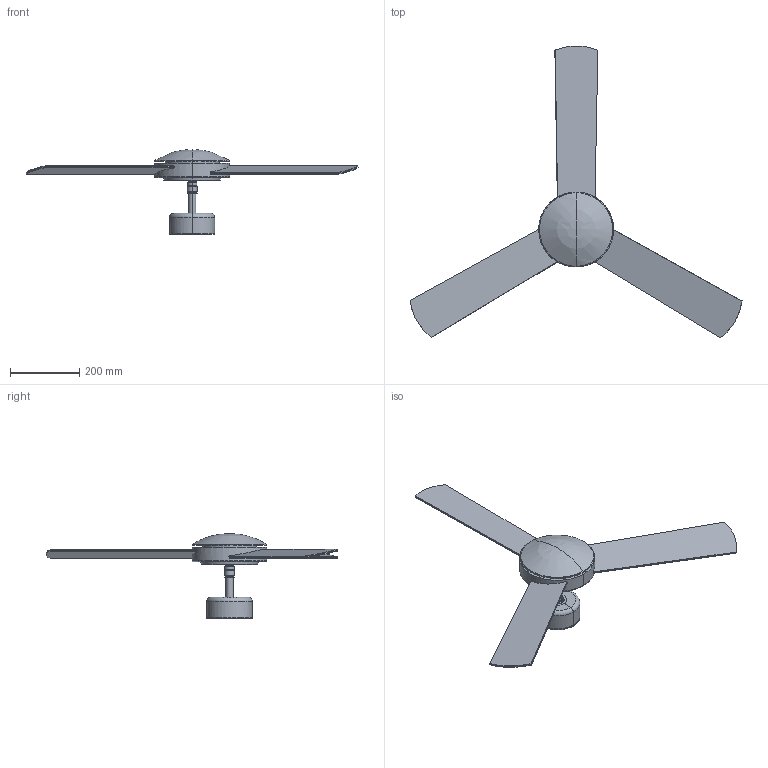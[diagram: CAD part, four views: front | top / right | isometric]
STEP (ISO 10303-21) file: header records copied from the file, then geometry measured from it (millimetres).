
FILE_DESCRIPTION(/* description */ (''),/* implementation_level */ '2;1');
FILE_NAME(/* name */ '33603DC.step',/* time_stamp */ '2024-04-11T13:04:02+02:00',/* author */ ('RenataManzini'),/* organization */ (''),/* preprocessor_version */ 'ST-DEVELOPER v20',/* originating_system */ 'AutoCAD Mechanical',/* authorisation */ '');
FILE_SCHEMA (('AUTOMOTIVE_DESIGN { 1 0 10303 214 3 1 1 }'));
Length unit declared in the file: millimetre
Products named in the file (2): Product; 33603 33604 33605_ - fan-468849-Export
Assembly tree (1 placements, depth 2):
  Product
    33603 33604 33605_ - fan-468849-Export
Bounding box: 958.46 x 842.7 x 244.31 mm (x, y, z)
Volume: 4065371.5 mm3; surface area: 950304 mm2
Topology: 10 solids, 10 shells, 163 faces, 359 edges, 218 vertices
Faces by surface type: plane 91, cylinder 56, torus 8, cone 4, bspline 4
Entity records: 5415 total; most frequent: CARTESIAN_POINT 1760, DIRECTION 772, ORIENTED_EDGE 708, EDGE_CURVE 354, AXIS2_PLACEMENT_3D 288, VERTEX_POINT 213, LINE 196, VECTOR 196
